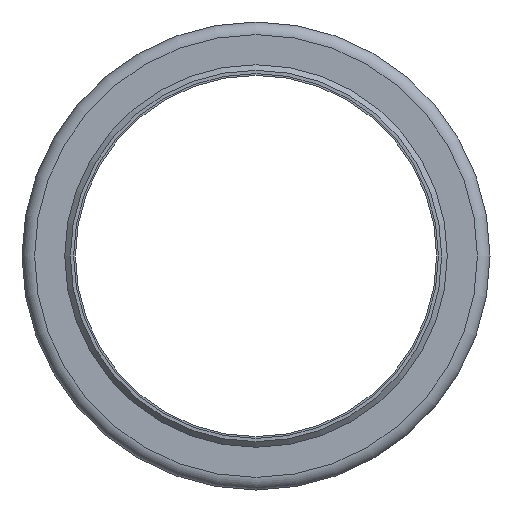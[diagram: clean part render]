
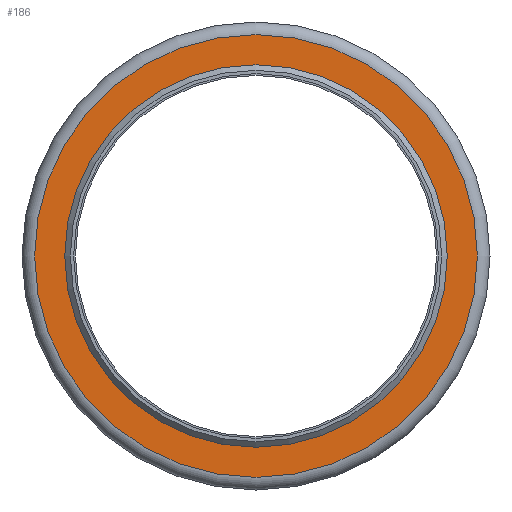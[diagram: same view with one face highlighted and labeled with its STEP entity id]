
A CAD part, front view. The second image highlights one B-rep face of the part: STEP entity #186.
In plain terms, the highlighted planar face has unit normal (0, -1, 0).
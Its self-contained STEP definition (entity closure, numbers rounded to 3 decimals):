
#34=PLANE('',#236);
#55=ORIENTED_EDGE('',*,*,#81,.T.);
#56=ORIENTED_EDGE('',*,*,#80,.F.);
#80=EDGE_CURVE('',#95,#95,#110,.T.);
#81=EDGE_CURVE('',#96,#96,#111,.T.);
#95=VERTEX_POINT('',#342);
#96=VERTEX_POINT('',#345);
#110=CIRCLE('',#235,136.5);
#111=CIRCLE('',#237,158.);
#130=EDGE_LOOP('',(#55));
#131=EDGE_LOOP('',(#56));
#160=FACE_BOUND('',#130,.T.);
#161=FACE_BOUND('',#131,.T.);
#186=ADVANCED_FACE('',(#160,#161),#34,.T.);
#235=AXIS2_PLACEMENT_3D('',#341,#282,#283);
#236=AXIS2_PLACEMENT_3D('',#343,#284,#285);
#237=AXIS2_PLACEMENT_3D('',#344,#286,#287);
#282=DIRECTION('',(0.,-1.,0.));
#283=DIRECTION('',(0.,0.,-1.));
#284=DIRECTION('',(0.,-1.,0.));
#285=DIRECTION('',(0.,0.,-1.));
#286=DIRECTION('',(0.,-1.,0.));
#287=DIRECTION('',(0.,0.,-1.));
#341=CARTESIAN_POINT('',(0.,0.,0.));
#342=CARTESIAN_POINT('',(0.,0.,-136.5));
#343=CARTESIAN_POINT('',(0.,0.,136.5));
#344=CARTESIAN_POINT('',(0.,0.,0.));
#345=CARTESIAN_POINT('',(0.,0.,-158.));
